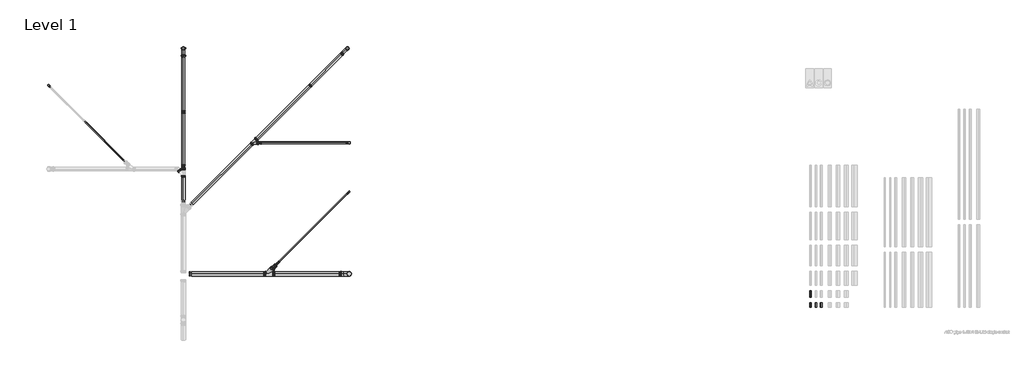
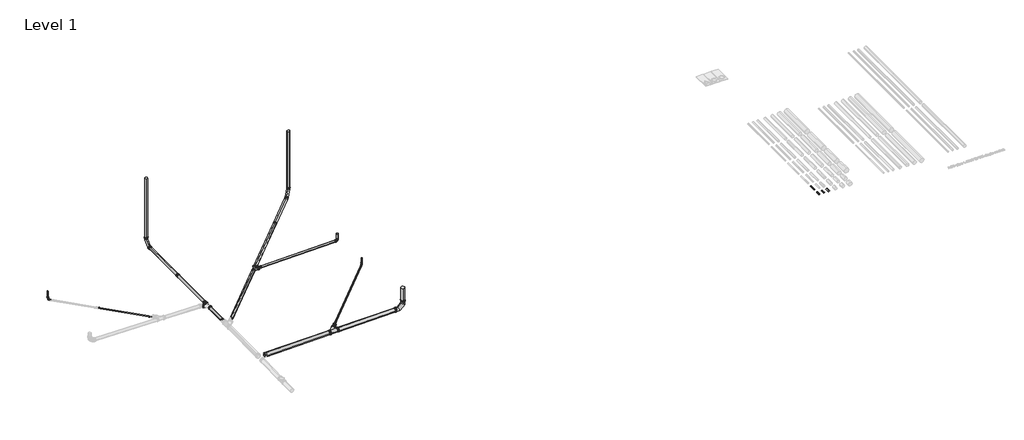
# One storey, part 5 of 13: 54 pipe fittings, 21 pipe segments.
"""IFC4 building model written with IfcOpenShell, lengths in millimetres."""

from ifc_helpers import new_model, si_unit, point, frame, frame_2d, origin, place, context, project, spatial, circle_curve, trimmed, segment, composite_curve, outline, extrude, transform, mapped, element, save
from components import pipe_fitting_1_4404_a0c9185b, pipe_fitting_1_4404_ad30eb08, pipe_fitting_1_4404_a61b8bae, pipe_fitting_1_4404_3284edd7, pipe_fitting_1_4404_e9e6778f, pipe_fitting_1_4404_78f4e6b2, pipe_fitting_1_4404_7859ca27, pipe_fitting_1_4404_a287a520, pipe_fitting_1_4404_6c9c62c8, pipe_fitting_1_4404_cceba5ae, std_4d603621, std_53fa1e38, std_1d744fe9, std_d175c92f, std_a04eb2e2, std_nested_af07ce19, std_nested_b4e13f09, std_nested_072c2150, std_nested_4c693b00, std_nested_44e87db9, std_nested_5f98b4e1, std_nested_c85e2763, std_nested_70f44cd0, std_nested_4988e8d9, std_nested_0eafc151, std_nested_4f3602ba, std_nested_ec74517b, std_nested_ad07eb86, std_nested_c2194d23, std_nested_c6c84c1b, std_nested_8d97be52, std_nested_1dc62a2a, std_nested_8c5ec0dd, std_nested_c800a1cb, std_nested_79b518f9

model = new_model("IFC4")

# Units and contexts
model_context = context("Model", 3, world=origin())
ifc_project = project(units=[si_unit("LENGTHUNIT", "METRE", prefix="MILLI")], contexts=[model_context])

# Site, building, storey
site = spatial("IfcSite", under=ifc_project)
building = spatial("IfcBuilding", under=site)
storey = spatial("IfcBuildingStorey", under=building, Name="Level 1", Elevation=0.0)

# Pipe fittings
placement = place(None, origin())
pipe_fitting_1_4404_shape = pipe_fitting_1_4404_a0c9185b(model_context)
element("IfcPipeFitting", 1, ObjectType="PIF_ST_UN_ACO pipe multibranch_ACO : 1.4404", at=placement, inside=storey, context=model_context, shape_type="MappedRepresentation", body=[
    mapped(pipe_fitting_1_4404_shape, transform((-21424.38778, 1191.2457969, 81.7305835), x_axis=(0.9998875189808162, 0.0, 0.014998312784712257), y_axis=(-9.317528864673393e-05, 0.999980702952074, 0.006211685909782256), z_axis=(-0.014998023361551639, -0.006212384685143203, 0.9998682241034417))),
])
pipe_fitting_1_4404_2_shape = pipe_fitting_1_4404_ad30eb08(model_context)
element("IfcPipeFitting", 2, ObjectType="PIF_ST_UN_ACO pipe bend_ACO : 1.4404", at=placement, inside=storey, context=model_context, shape_type="MappedRepresentation", body=[
    mapped(pipe_fitting_1_4404_2_shape, transform((-18439.5447073, 5952.2695442, 198.8509942), x_axis=(0.0, 0.0, -1.0), y_axis=(-1.0, 0.0, 0.0), z_axis=(0.0, 1.0, 0.0))),
])
pipe_fitting_1_4404_3_shape = pipe_fitting_1_4404_a61b8bae(model_context)
element("IfcPipeFitting", 3, ObjectType="PIF_ST_UN_ACO pipe double bend_ACO : 1.4404", at=placement, inside=storey, context=model_context, shape_type="MappedRepresentation", body=[
    mapped(pipe_fitting_1_4404_3_shape, transform((-18439.7731339, 4176.3172962, 197.0535129), x_axis=(0.0, 0.0, -1.0), y_axis=(-0.7071067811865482, -0.7071067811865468, 0.0), z_axis=(-0.7071067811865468, 0.7071067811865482, 0.0))),
])
pipe_fitting_1_4404_4_shape = pipe_fitting_1_4404_3284edd7(model_context)
element("IfcPipeFitting", 4, ObjectType="PIF_ST_UN_ACO pipe long bend_ACO : 1.4404", at=placement, inside=storey, context=model_context, shape_type="MappedRepresentation", body=[
    mapped(pipe_fitting_1_4404_4_shape, transform((-18505.2897132, 9386.7440181, 204.2019308), x_axis=(0.0, 0.0, -1.0), y_axis=(-0.7071067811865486, -0.7071067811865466, 0.0), z_axis=(-0.7071067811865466, 0.7071067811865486, 0.0))),
])
pipe_fitting_1_4404_5_shape = pipe_fitting_1_4404_e9e6778f(model_context)
element("IfcPipeFitting", 5, ObjectType="PIF_ST_UN_ACO pipe long bend_ACO : 1.4404", at=placement, inside=storey, context=model_context, shape_type="MappedRepresentation", body=[
    mapped(pipe_fitting_1_4404_5_shape, transform((-18439.5447073, 1191.2457969, 126.5032296), x_axis=(0.9998875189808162, 0.0, 0.014998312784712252), y_axis=(-0.014998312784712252, 0.0, 0.9998875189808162), z_axis=(0.0, -1.0, 0.0))),
])
pipe_fitting_1_4404_6_shape = pipe_fitting_1_4404_78f4e6b2(model_context)
element("IfcPipeFitting", 6, ObjectType="PIF_ST_UN_ACO pipe long bend_ACO : 1.4404", at=placement, inside=storey, context=model_context, shape_type="MappedRepresentation", body=[
    mapped(pipe_fitting_1_4404_6_shape, transform((-24468.5517039, 9386.7041561, 70.403708), x_axis=(0.0, 0.0, -1.0), y_axis=(0.0, -1.0, 0.0), z_axis=(-1.0, 0.0, 0.0))),
])
pipe_fitting_1_4404_7_shape = pipe_fitting_1_4404_7859ca27(model_context)
element("IfcPipeFitting", 7, ObjectType="PIF_ST_UN_ACO pipe multibranch_ACO : 1.4404", at=placement, inside=storey, context=model_context, shape_type="MappedRepresentation", body=[
    mapped(pipe_fitting_1_4404_7_shape, transform((-21939.6710013, 5952.3627299, 131.3477019), x_axis=(0.7070272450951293, 0.7070272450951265, 0.01499831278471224), y_axis=(0.7070272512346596, -0.7071590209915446, 0.0062116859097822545), z_axis=(0.014998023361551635, 0.006212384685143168, -0.9998682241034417))),
])
pipe_fitting_1_4404_8_shape = pipe_fitting_1_4404_a287a520(model_context)
element("IfcPipeFitting", 8, ObjectType="PIF_ST_UN_ACO pipe double bend_ACO : 1.4404", at=placement, inside=storey, context=model_context, shape_type="MappedRepresentation", body=[
    mapped(pipe_fitting_1_4404_8_shape, transform((-29368.6615244, 8045.8349965, 136.9828864), x_axis=(0.0, 0.0, -1.0), y_axis=(0.7071067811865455, -0.7071067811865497, 0.0), z_axis=(-0.7071067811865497, -0.7071067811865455, 0.0))),
])
pipe_fitting_1_4404_9_shape = pipe_fitting_1_4404_6c9c62c8(model_context)
element("IfcPipeFitting", 9, ObjectType="PIF_ST_UN_ACO pipe repair coupling_ACO : 1.4404", at=placement, inside=storey, context=model_context, shape_type="MappedRepresentation", body=[
    mapped(pipe_fitting_1_4404_9_shape, transform((-24468.5517039, 7070.7041561, 70.403708), x_axis=(0.0, -1.0, 0.0), y_axis=(1.0, 0.0, 0.0), z_axis=(0.0, 0.0, 1.0))),
])
pipe_fitting_1_4404_10_shape = pipe_fitting_1_4404_cceba5ae(model_context)
element("IfcPipeFitting", 10, ObjectType="PIF_ST_UN_ACO pipe multireducer_ACO : 1.4404", at=placement, inside=storey, context=model_context, shape_type="MappedRepresentation", body=[
    mapped(pipe_fitting_1_4404_10_shape, transform((-24468.5517039, 5032.9655847, 69.8540739), x_axis=(0.0, 0.9999613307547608, 0.008794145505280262), y_axis=(-0.014997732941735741, 0.008793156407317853, -0.9998488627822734), z_axis=(-0.9998875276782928, -0.00013189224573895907, 0.014997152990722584))),
])
std_shape = std_4d603621(model_context)
element("IfcPipeFitting", 11, ObjectType="ZZZ_do not use_PIF_ST_UN_ACO pipe increaser coupling_ACO : std", at=placement, inside=storey, context=model_context, shape_type="MappedRepresentation", body=[
    mapped(std_shape, transform((-21735.6939474, 5952.3627299, 134.4073577), x_axis=(0.9998875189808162, 0.0, 0.014998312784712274), y_axis=(9.317528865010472e-05, -0.999980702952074, -0.00621168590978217), z_axis=(0.014998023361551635, 0.006212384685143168, -0.9998682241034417))),
])
std_2_shape = std_53fa1e38(model_context)
element("IfcPipeFitting", 12, ObjectType="ZZZ_do not use_PIF_ST_UN_ACO pipe increaser coupling_ACO : std", at=placement, inside=storey, context=model_context, shape_type="MappedRepresentation", body=[
    mapped(std_2_shape, transform((-21210.865552, 1404.7680249, 86.2600739), x_axis=(0.7070272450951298, 0.707027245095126, 0.014998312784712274), y_axis=(-0.7070272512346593, 0.7071590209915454, -0.006211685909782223), z_axis=(-0.014998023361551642, -0.006212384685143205, 0.9998682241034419))),
])
std_3_shape = std_1d744fe9(model_context)
element("IfcPipeFitting", 13, ObjectType="ZZZ_do not use_PIF_ST_UN_ACO pipe increaser coupling_ACO : std", at=placement, inside=storey, context=model_context, shape_type="MappedRepresentation", body=[
    mapped(std_3_shape, transform((-21115.7468304, 1500.0800305, 110.2819471), x_axis=(0.7070272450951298, 0.707027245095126, 0.014998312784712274), y_axis=(-0.7070272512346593, 0.7071590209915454, -0.006211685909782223), z_axis=(-0.014998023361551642, -0.006212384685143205, 0.9998682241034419))),
])
std_4_shape = std_d175c92f(model_context)
element("IfcPipeFitting", 14, ObjectType="ZZZ_do not use_PIF_ST_UN_ACO pipe increaser coupling_ACO : std", at=placement, inside=storey, context=model_context, shape_type="MappedRepresentation", body=[
    mapped(std_4_shape, transform((-21047.1866246, 1568.8598773, 136.7409882), x_axis=(0.7070272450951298, 0.707027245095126, 0.014998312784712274), y_axis=(-0.7070272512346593, 0.7071590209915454, -0.006211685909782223), z_axis=(-0.014998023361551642, -0.006212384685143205, 0.9998682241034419))),
])
std_5_shape = std_a04eb2e2(model_context)
element("IfcPipeFitting", 15, ObjectType="ZZZ_do not use_PIF_ST_UN_ACO pipe increaser coupling_ACO : std", at=placement, inside=storey, context=model_context, shape_type="MappedRepresentation", body=[
    mapped(std_5_shape, transform((-24468.5517039, 5032.9655847, 69.8540739), x_axis=(0.0, 0.9999613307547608, 0.008794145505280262), y_axis=(-0.014997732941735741, 0.008793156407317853, -0.9998488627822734), z_axis=(-0.9998875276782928, -0.00013189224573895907, 0.014997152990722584))),
])
std_nested_shape = std_nested_af07ce19(model_context)
element("IfcPipeFitting", 16, ObjectType="ZZZ_do not use_PIF_ST_UN_ACO pipe socket_ACO : std (nested)", at=placement, inside=storey, context=model_context, shape_type="MappedRepresentation", body=[
    mapped(std_nested_shape, transform((-21790.687761, 5952.3627299, 133.5824505), x_axis=(0.9998875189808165, 0.0, 0.014998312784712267), y_axis=(9.317528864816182e-05, -0.9999807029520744, -0.0062116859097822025), z_axis=(0.014998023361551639, 0.00621238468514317, -0.9998682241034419))),
])
element("IfcPipeFitting", 17, ObjectType="ZZZ_do not use_PIF_ST_UN_ACO pipe socket_ACO : std (nested)", at=placement, inside=storey, context=model_context, shape_type="MappedRepresentation", body=[
    mapped(std_nested_shape, transform((-21154.6333289, 1461.193532, 109.4570399), x_axis=(0.7070272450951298, 0.707027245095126, 0.014998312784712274), y_axis=(-0.7070272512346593, 0.7071590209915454, -0.006211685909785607), z_axis=(-0.014998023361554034, -0.006212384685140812, 0.9998682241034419))),
])
std_nested_2_shape = std_nested_b4e13f09(model_context)
element("IfcPipeFitting", 18, ObjectType="ZZZ_do not use_PIF_ST_UN_ACO pipe socket_ACO : std (nested)", at=placement, inside=storey, context=model_context, shape_type="MappedRepresentation", body=[
    mapped(std_nested_2_shape, transform((-22001.8893988, 5890.1443324, 130.0278503), x_axis=(-0.7070272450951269, -0.707027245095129, -0.014998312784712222), y_axis=(-0.7070272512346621, 0.7071590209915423, -0.006211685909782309), z_axis=(0.014998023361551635, 0.006212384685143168, -0.9998682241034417))),
])
element("IfcPipeFitting", 19, ObjectType="ZZZ_do not use_PIF_ST_UN_ACO pipe socket_ACO : std (nested)", at=placement, inside=storey, context=model_context, shape_type="MappedRepresentation", body=[
    mapped(std_nested_2_shape, transform((-19875.6167181, 8016.4170131, 175.1329053), x_axis=(-0.707027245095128, -0.7070272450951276, -0.014998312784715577), y_axis=(-0.014998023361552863, -0.006212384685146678, 0.9998682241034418), z_axis=(-0.7070272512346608, 0.7071590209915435, -0.006211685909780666))),
])
std_nested_3_shape = std_nested_072c2150(model_context)
element("IfcPipeFitting", 20, ObjectType="ZZZ_do not use_PIF_ST_UN_ACO pipe socket_ACO : std (nested)", at=placement, inside=storey, context=model_context, shape_type="MappedRepresentation", body=[
    mapped(std_nested_3_shape, transform((-29337.8948765, 8015.0683486, 153.174939), x_axis=(-0.4962362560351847, 0.4962362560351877, 0.7123897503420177), y_axis=(-0.5037356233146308, 0.5037356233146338, -0.7017840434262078), z_axis=(-0.7071067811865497, -0.7071067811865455, 0.0))),
])
element("IfcPipeFitting", 21, ObjectType="ZZZ_do not use_PIF_ST_UN_ACO pipe socket_ACO : std (nested)", at=placement, inside=storey, context=model_context, shape_type="MappedRepresentation", body=[
    mapped(std_nested_3_shape, transform((-29368.6615244, 8045.8349965, 221.3431035), x_axis=(0.0, 0.0, 1.0), y_axis=(-0.7071067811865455, 0.7071067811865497, 0.0), z_axis=(-0.7071067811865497, -0.7071067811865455, 0.0))),
])
element("IfcPipeFitting", 22, ObjectType="ZZZ_do not use_PIF_ST_UN_ACO pipe socket_ACO : std (nested)", at=placement, inside=storey, context=model_context, shape_type="MappedRepresentation", body=[
    mapped(std_nested_3_shape, transform((-21077.2352825, 1538.8112194, 136.1035599), x_axis=(0.7070272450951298, 0.707027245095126, 0.014998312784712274), y_axis=(-0.7070272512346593, 0.7071590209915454, -0.006211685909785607), z_axis=(-0.014998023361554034, -0.006212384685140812, 0.9998682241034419))),
])
std_nested_4_shape = std_nested_4c693b00(model_context)
element("IfcPipeFitting", 23, ObjectType="ZZZ_do not use_PIF_ST_UN_ACO pipe socket_ACO : std (nested)", at=placement, inside=storey, context=model_context, shape_type="MappedRepresentation", body=[
    mapped(std_nested_4_shape, transform((-21680.9251042, 5952.2695442, 150.2302882), x_axis=(0.9998875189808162, 0.0, 0.014998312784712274), y_axis=(9.317528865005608e-05, -0.999980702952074, -0.006211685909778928), z_axis=(0.014998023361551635, 0.006212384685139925, -0.9998682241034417))),
])
element("IfcPipeFitting", 24, ObjectType="ZZZ_do not use_PIF_ST_UN_ACO pipe socket_ACO : std (nested)", at=placement, inside=storey, context=model_context, shape_type="MappedRepresentation", body=[
    mapped(std_nested_4_shape, transform((-18439.5447073, 5952.2695442, 251.8509942), x_axis=(0.0, 0.0, 1.0), y_axis=(1.0, 0.0, 0.0), z_axis=(0.0, 1.0, 0.0))),
])
std_nested_5_shape = std_nested_44e87db9(model_context)
element("IfcPipeFitting", 25, ObjectType="ZZZ_do not use_PIF_ST_UN_ACO pipe socket_ACO : std (nested)", at=placement, inside=storey, context=model_context, shape_type="MappedRepresentation", body=[
    mapped(std_nested_5_shape, transform((-18519.9833784, 4096.1070517, 195.3519967), x_axis=(-0.7070272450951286, -0.7070272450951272, -0.014998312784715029), y_axis=(-0.01060540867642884, -0.010605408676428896, 0.9998875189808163), z_axis=(-0.7071067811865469, 0.7071067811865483, 0.0))),
])
std_nested_6_shape = std_nested_5f98b4e1(model_context)
element("IfcPipeFitting", 26, ObjectType="ZZZ_do not use_PIF_ST_UN_ACO pipe socket_ACO : std (nested)", at=placement, inside=storey, context=model_context, shape_type="MappedRepresentation", body=[
    mapped(std_nested_6_shape, transform((-18546.5326718, 5952.2695442, 197.2461747), x_axis=(-0.9998875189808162, 0.0, -0.014998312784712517), y_axis=(-0.01499831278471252, 0.0, 0.9998875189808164), z_axis=(0.0, 1.0000000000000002, 0.0))),
])
std_nested_7_shape = std_nested_c85e2763(model_context)
element("IfcPipeFitting", 27, ObjectType="ZZZ_do not use_PIF_ST_UN_ACO pipe socket_ACO : std (nested)", at=placement, inside=storey, context=model_context, shape_type="MappedRepresentation", body=[
    mapped(std_nested_7_shape, transform((-18468.5548368, 4147.5355933, 211.1820836), x_axis=(0.49623625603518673, 0.4962362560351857, 0.7123897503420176), y_axis=(0.5037356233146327, 0.5037356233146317, -0.7017840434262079), z_axis=(-0.7071067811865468, 0.7071067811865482, 0.0))),
])
element("IfcPipeFitting", 28, ObjectType="ZZZ_do not use_PIF_ST_UN_ACO pipe socket_ACO : std (nested)", at=placement, inside=storey, context=model_context, shape_type="MappedRepresentation", body=[
    mapped(std_nested_7_shape, transform((-18439.7731339, 4176.3172962, 273.5006891), x_axis=(0.0, 0.0, 1.0), y_axis=(0.7071067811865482, 0.7071067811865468, 0.0), z_axis=(-0.7071067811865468, 0.7071067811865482, 0.0))),
])
element("IfcPipeFitting", 29, ObjectType="ZZZ_do not use_PIF_ST_UN_ACO pipe socket_ACO : std (nested)", at=placement, inside=storey, context=model_context, shape_type="MappedRepresentation", body=[
    mapped(std_nested_7_shape, transform((-21017.2129568, 1598.8774733, 142.3777576), x_axis=(0.7070272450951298, 0.707027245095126, 0.014998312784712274), y_axis=(-0.7070272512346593, 0.7071590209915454, -0.0062116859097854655), z_axis=(-0.014998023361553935, -0.0062123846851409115, 0.9998682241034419))),
])
std_nested_8_shape = std_nested_70f44cd0(model_context)
element("IfcPipeFitting", 30, ObjectType="ZZZ_do not use_PIF_ST_UN_ACO pipe socket_ACO : std (nested)", at=placement, inside=storey, context=model_context, shape_type="MappedRepresentation", body=[
    mapped(std_nested_8_shape, transform((-21543.3743948, 1191.2457969, 79.9457842), x_axis=(-0.9998875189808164, 0.0, -0.01499831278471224), y_axis=(9.317528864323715e-05, -0.9999807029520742, -0.006211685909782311), z_axis=(-0.014998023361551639, -0.006212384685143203, 0.9998682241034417))),
])
std_nested_9_shape = std_nested_4988e8d9(model_context)
element("IfcPipeFitting", 31, ObjectType="ZZZ_do not use_PIF_ST_UN_ACO pipe socket_ACO : std (nested)", at=placement, inside=storey, context=model_context, shape_type="MappedRepresentation", body=[
    mapped(std_nested_9_shape, transform((-21211.4117385, 1191.2457969, 84.9252241), x_axis=(0.9998875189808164, 0.0, 0.014998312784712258), y_axis=(-9.317528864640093e-05, 0.9999807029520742, 0.006211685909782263), z_axis=(-0.014998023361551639, -0.006212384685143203, 0.9998682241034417))),
])
element("IfcPipeFitting", 32, ObjectType="ZZZ_do not use_PIF_ST_UN_ACO pipe socket_ACO : std (nested)", at=placement, inside=storey, context=model_context, shape_type="MappedRepresentation", body=[
    mapped(std_nested_9_shape, transform((-21267.4277316, 1348.2058453, 85.0602089), x_axis=(0.7070272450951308, 0.7070272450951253, 0.014998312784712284), y_axis=(-0.7070272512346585, 0.7071590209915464, -0.006211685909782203), z_axis=(-0.014998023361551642, -0.006212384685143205, 0.9998682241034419))),
])
std_nested_10_shape = std_nested_0eafc151(model_context)
element("IfcPipeFitting", 33, ObjectType="ZZZ_do not use_PIF_ST_UN_ACO pipe socket_ACO : std (nested)", at=placement, inside=storey, context=model_context, shape_type="MappedRepresentation", body=[
    mapped(std_nested_10_shape, transform((-24468.5517039, 4970.4680015, 69.3044398), x_axis=(0.0, 0.999961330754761, 0.008794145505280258), y_axis=(-0.9998875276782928, -0.0001318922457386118, 0.014997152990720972), z_axis=(0.014997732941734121, -0.008793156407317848, 0.999848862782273))),
])
element("IfcPipeFitting", 34, ObjectType="ZZZ_do not use_PIF_ST_UN_ACO pipe socket_ACO : std (nested)", at=placement, inside=storey, context=model_context, shape_type="MappedRepresentation", body=[
    mapped(std_nested_10_shape, transform((-24588.7384096, 4920.6701532, 70.6692939), x_axis=(-0.706980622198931, 0.7070328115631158, 0.016822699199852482), y_axis=(-0.7070738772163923, -0.7071260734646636, 0.004387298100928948), z_axis=(0.014997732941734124, -0.00879315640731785, 0.9998488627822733))),
])
std_nested_11_shape = std_nested_4f3602ba(model_context)
element("IfcPipeFitting", 35, ObjectType="ZZZ_do not use_PIF_ST_UN_ACO pipe socket_ACO : std (nested)", at=placement, inside=storey, context=model_context, shape_type="MappedRepresentation", body=[
    mapped(std_nested_11_shape, transform((-24468.5517039, 4697.4785582, 66.9036381), x_axis=(0.0, -0.999961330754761, -0.008794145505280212), y_axis=(0.9998875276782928, 0.0001318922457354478, -0.014997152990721), z_axis=(0.014997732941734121, -0.008793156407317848, 0.999848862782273))),
])
std_nested_12_shape = std_nested_ec74517b(model_context)
element("IfcPipeFitting", 36, ObjectType="ZZZ_do not use_PIF_ST_UN_ACO pipe socket_ACO : std (nested)", at=placement, inside=storey, context=model_context, shape_type="MappedRepresentation", body=[
    mapped(std_nested_12_shape, transform((-24468.5517039, 5095.4631678, 70.403708), x_axis=(0.0, 0.9999613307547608, 0.008794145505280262), y_axis=(-0.014997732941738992, 0.008793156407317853, -0.9998488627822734), z_axis=(-0.9998875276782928, -0.00013189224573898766, 0.014997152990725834))),
])
element("IfcPipeFitting", 37, ObjectType="ZZZ_do not use_PIF_ST_UN_ACO pipe socket_ACO : std (nested)", at=placement, inside=storey, context=model_context, shape_type="MappedRepresentation", body=[
    mapped(std_nested_2_shape, transform((-18728.7103226, 9163.3234086, 199.462464), x_axis=(-0.7070272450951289, -0.7070272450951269, -0.014998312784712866), y_axis=(-0.010605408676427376, -0.010605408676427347, 0.9998875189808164), z_axis=(-0.7071067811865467, 0.7071067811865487, 0.0))),
])
element("IfcPipeFitting", 38, ObjectType="ZZZ_do not use_PIF_ST_UN_ACO pipe socket_ACO : std (nested)", at=placement, inside=storey, context=model_context, shape_type="MappedRepresentation", body=[
    mapped(std_nested_shape, transform((-18505.2897132, 9386.7440181, 450.2019308), x_axis=(0.0, 0.0, 1.0), y_axis=(0.7071067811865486, 0.7071067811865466, 0.0), z_axis=(-0.7071067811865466, 0.7071067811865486, 0.0))),
])
element("IfcPipeFitting", 39, ObjectType="ZZZ_do not use_PIF_ST_UN_ACO pipe socket_ACO : std (nested)", at=placement, inside=storey, context=model_context, shape_type="MappedRepresentation", body=[
    mapped(std_nested_9_shape, transform((-18439.5447073, 1191.2457969, 396.5032296), x_axis=(0.0, 0.0, 1.0000000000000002), y_axis=(-1.0000000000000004, 0.0, 0.0), z_axis=(0.0, -1.0000000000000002, 0.0))),
])
element("IfcPipeFitting", 40, ObjectType="ZZZ_do not use_PIF_ST_UN_ACO pipe socket_ACO : std (nested)", at=placement, inside=storey, context=model_context, shape_type="MappedRepresentation", body=[
    mapped(std_nested_8_shape, transform((-18799.5042141, 1191.2457969, 121.103837), x_axis=(-0.9998875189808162, 0.0, -0.01499831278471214), y_axis=(0.01499831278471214, 0.0, -0.9998875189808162), z_axis=(0.0, -1.0, 0.0))),
])
std_nested_13_shape = std_nested_ad07eb86(model_context)
element("IfcPipeFitting", 41, ObjectType="ZZZ_do not use_PIF_ST_UN_ACO pipe branch_ACO : std (nested)", at=placement, inside=storey, context=model_context, shape_type="MappedRepresentation", body=[
    mapped(std_nested_13_shape, transform((-21424.38778, 1191.2457969, 81.7305835), x_axis=(0.9998875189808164, 0.0, 0.014998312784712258), y_axis=(-9.317528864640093e-05, 0.9999807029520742, 0.006211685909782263), z_axis=(-0.014998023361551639, -0.006212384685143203, 0.9998682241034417))),
])
std_nested_14_shape = std_nested_c2194d23(model_context)
element("IfcPipeFitting", 42, ObjectType="ZZZ_do not use_PIF_ST_UN_ACO pipe bend_ACO : std (nested)", at=placement, inside=storey, context=model_context, shape_type="MappedRepresentation", body=[
    mapped(std_nested_14_shape, transform((-18478.9757981, 4137.114632, 196.2218988), x_axis=(-0.49623625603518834, -0.4962362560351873, -0.7123897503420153), y_axis=(-0.5037356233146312, -0.5037356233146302, 0.7017840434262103), z_axis=(-0.7071067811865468, 0.7071067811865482, 0.0))),
])
element("IfcPipeFitting", 43, ObjectType="ZZZ_do not use_PIF_ST_UN_ACO pipe bend_ACO : std (nested)", at=placement, inside=storey, context=model_context, shape_type="MappedRepresentation", body=[
    mapped(std_nested_14_shape, transform((-18439.7731339, 4176.3172962, 252.5006891), x_axis=(0.0, 0.0, -1.0), y_axis=(-0.7071067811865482, -0.7071067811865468, 0.0), z_axis=(-0.7071067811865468, 0.7071067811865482, 0.0))),
])
std_nested_15_shape = std_nested_c6c84c1b(model_context)
element("IfcPipeFitting", 44, ObjectType="ZZZ_do not use_PIF_ST_UN_ACO pipe socket clamp_ACO : std (nested)", at=placement, inside=storey, context=model_context, shape_type="MappedRepresentation", body=[
    mapped(std_nested_15_shape, transform((-21807.4569064, 6084.5768248, 134.1523863), x_axis=(0.7070272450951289, 0.707027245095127, 0.01499831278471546), y_axis=(-0.7070272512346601, 0.7071590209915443, -0.006211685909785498), z_axis=(-0.014998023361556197, -0.0062123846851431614, 0.9998682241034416))),
])
element("IfcPipeFitting", 45, ObjectType="ZZZ_do not use_PIF_ST_UN_ACO pipe socket_ACO : std (nested)", at=placement, inside=storey, context=model_context, shape_type="MappedRepresentation", body=[
    mapped(std_nested_2_shape, transform((-24468.5517039, 9070.7041561, 70.403708), x_axis=(0.0, -1.0, 0.0), y_axis=(0.0, 0.0, 1.0), z_axis=(-1.0, 0.0, 0.0))),
])
std_nested_16_shape = std_nested_8d97be52(model_context)
element("IfcPipeFitting", 46, ObjectType="ZZZ_do not use_PIF_ST_UN_ACO pipe socket clamp two parts_ACO : std (nested)", at=placement, inside=storey, context=model_context, shape_type="MappedRepresentation", body=[
    mapped(std_nested_16_shape, transform((-24468.5517039, 9112.7041561, 70.403708), x_axis=(0.0, 1.0, 0.0), y_axis=(-1.0, 0.0, 0.0), z_axis=(0.0, 0.0, 1.0))),
])
element("IfcPipeFitting", 47, ObjectType="ZZZ_do not use_PIF_ST_UN_ACO pipe socket clamp two parts_ACO : std (nested)", at=placement, inside=storey, context=model_context, shape_type="MappedRepresentation", body=[
    mapped(std_nested_16_shape, transform((-24468.5517039, 9386.7041561, 358.403708), x_axis=(0.0, 0.0, 1.0), y_axis=(-1.0, 0.0, 0.0), z_axis=(0.0, -1.0, 0.0))),
])
element("IfcPipeFitting", 48, ObjectType="ZZZ_do not use_PIF_ST_UN_ACO pipe socket_ACO : std (nested)", at=placement, inside=storey, context=model_context, shape_type="MappedRepresentation", body=[
    mapped(std_nested_shape, transform((-24468.5517039, 9386.7041561, 316.403708), x_axis=(0.0, 0.0, 1.0), y_axis=(0.0, 1.0, 0.0), z_axis=(-1.0, 0.0, 0.0))),
])
std_nested_17_shape = std_nested_1dc62a2a(model_context)
element("IfcPipeFitting", 49, ObjectType="ZZZ_do not use_PIF_ST_UN_ACO pipe branch_ACO : std (nested)", at=placement, inside=storey, context=model_context, shape_type="MappedRepresentation", body=[
    mapped(std_nested_17_shape, transform((-21939.6710013, 5952.3627299, 131.3477019), x_axis=(0.7070272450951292, 0.7070272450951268, 0.014998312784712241), y_axis=(0.7070272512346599, -0.7071590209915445, 0.0062116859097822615), z_axis=(0.014998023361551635, 0.006212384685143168, -0.9998682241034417))),
])
element("IfcPipeFitting", 50, ObjectType="ZZZ_do not use_PIF_ST_UN_ACO pipe socket_ACO : std (nested)", at=placement, inside=storey, context=model_context, shape_type="MappedRepresentation", body=[
    mapped(std_nested_shape, transform((-21837.1520507, 6054.8816805, 133.5224572), x_axis=(0.7070272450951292, 0.7070272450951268, 0.014998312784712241), y_axis=(0.7070272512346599, -0.7071590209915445, 0.0062116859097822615), z_axis=(0.014998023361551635, 0.006212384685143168, -0.9998682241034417))),
])
std_nested_18_shape = std_nested_8c5ec0dd(model_context)
element("IfcPipeFitting", 51, ObjectType="ZZZ_do not use_PIF_ST_UN_ACO pipe bend_ACO : std (nested)", at=placement, inside=storey, context=model_context, shape_type="MappedRepresentation", body=[
    mapped(std_nested_18_shape, transform((-29325.9852063, 8003.1586784, 136.077585), x_axis=(0.4962362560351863, -0.4962362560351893, -0.7123897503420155), y_axis=(0.5037356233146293, -0.5037356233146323, 0.7017840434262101), z_axis=(-0.7071067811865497, -0.7071067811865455, 0.0))),
])
element("IfcPipeFitting", 52, ObjectType="ZZZ_do not use_PIF_ST_UN_ACO pipe bend_ACO : std (nested)", at=placement, inside=storey, context=model_context, shape_type="MappedRepresentation", body=[
    mapped(std_nested_18_shape, transform((-29368.6615244, 8045.8349965, 197.3431035), x_axis=(0.0, 0.0, -1.0), y_axis=(0.7071067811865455, -0.7071067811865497, 0.0), z_axis=(-0.7071067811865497, -0.7071067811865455, 0.0))),
])
std_nested_19_shape = std_nested_c800a1cb(model_context)
element("IfcPipeFitting", 53, ObjectType="ZZZ_do not use_PIF_ST_UN_ACO pipe multireducer_ACO : std (nested)", at=placement, inside=storey, context=model_context, shape_type="MappedRepresentation", body=[
    mapped(std_nested_19_shape, transform((-21735.6939474, 5952.3627299, 134.4073577), x_axis=(0.9998875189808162, 0.0, 0.014998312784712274), y_axis=(9.317528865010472e-05, -0.999980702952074, -0.00621168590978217), z_axis=(0.014998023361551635, 0.006212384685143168, -0.9998682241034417))),
])
std_nested_20_shape = std_nested_79b518f9(model_context)
element("IfcPipeFitting", 54, ObjectType="ZZZ_do not use_PIF_ST_UN_ACO pipe multireducer_ACO : std (nested)", at=placement, inside=storey, context=model_context, shape_type="MappedRepresentation", body=[
    mapped(std_nested_20_shape, transform((-21141.9303956, 1473.7031813, 87.7224094), x_axis=(0.7070272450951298, 0.707027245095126, 0.014998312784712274), y_axis=(-0.7070272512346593, 0.7071590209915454, -0.006211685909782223), z_axis=(-0.014998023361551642, -0.006212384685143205, 0.9998682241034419))),
])

# Pipe segments
element("IfcPipeSegment", 55, ObjectType="ACO pipe 1.4301 OD (complex)", at=placement, inside=storey, context=model_context, shape_type="SweptSolid", body=[
    extrude(outline(composite_curve([segment(trimmed(circle_curve(frame_2d((0.0, -1678.2538939)), 20.0), [point((0.0, -1658.2538939))], [point((20.0, -1678.2538939))], False, "CARTESIAN"), True, "CONTINUOUS"), segment(trimmed(circle_curve(frame_2d((0.0, -1678.2538939)), 20.0), [point((20.0, -1678.2538939))], [point((0.0, -1698.2538939))], False, "CARTESIAN"), True, "CONTINUOUS"), segment(trimmed(circle_curve(frame_2d((0.0, -1678.2538939)), 20.0), [point((0.0, -1698.2538939))], [point((-20.0, -1678.2538939))], False, "CARTESIAN"), True, "CONTINUOUS"), segment(trimmed(circle_curve(frame_2d((0.0, -1678.2538939)), 20.0), [point((-20.0, -1678.2538939))], [point((0.0, -1658.2538939))], False, "CARTESIAN"), True, "CONTINUOUS")], self_intersect=False)), frame((0.0, -19.2114353, 0.0), z_axis=(0.0, 1.0, 0.0), x_axis=(0.0, 0.0, 1.0)), (0.0, 0.0, 1.0), 150.0),
])
element("IfcPipeSegment", 56, ObjectType="ACO pipe 1.4301 OD (complex)", at=placement, inside=storey, context=model_context, shape_type="SweptSolid", body=[
    extrude(outline(composite_curve([segment(trimmed(circle_curve(frame_2d((0.0, -1478.2538939)), 25.0), [point((0.0, -1453.2538939))], [point((25.0, -1478.2538939))], False, "CARTESIAN"), True, "CONTINUOUS"), segment(trimmed(circle_curve(frame_2d((0.0, -1478.2538939)), 25.0), [point((25.0, -1478.2538939))], [point((0.0, -1503.2538939))], False, "CARTESIAN"), True, "CONTINUOUS"), segment(trimmed(circle_curve(frame_2d((0.0, -1478.2538939)), 25.0), [point((0.0, -1503.2538939))], [point((-25.0, -1478.2538939))], False, "CARTESIAN"), True, "CONTINUOUS"), segment(trimmed(circle_curve(frame_2d((0.0, -1478.2538939)), 25.0), [point((-25.0, -1478.2538939))], [point((0.0, -1453.2538939))], False, "CARTESIAN"), True, "CONTINUOUS")], self_intersect=False)), frame((0.0, -19.2114353, 0.0), z_axis=(0.0, 1.0, 0.0), x_axis=(0.0, 0.0, 1.0)), (0.0, 0.0, 1.0), 150.0),
])
element("IfcPipeSegment", 57, ObjectType="ACO pipe 1.4301 OD (complex)", at=placement, inside=storey, context=model_context, shape_type="SweptSolid", body=[
    extrude(outline(composite_curve([segment(trimmed(circle_curve(frame_2d((0.0, -1278.2538939)), 37.5), [point((0.0, -1240.7538939))], [point((37.5, -1278.2538939))], False, "CARTESIAN"), True, "CONTINUOUS"), segment(trimmed(circle_curve(frame_2d((0.0, -1278.2538939)), 37.5), [point((37.5, -1278.2538939))], [point((0.0, -1315.7538939))], False, "CARTESIAN"), True, "CONTINUOUS"), segment(trimmed(circle_curve(frame_2d((0.0, -1278.2538939)), 37.5), [point((0.0, -1315.7538939))], [point((-37.5, -1278.2538939))], False, "CARTESIAN"), True, "CONTINUOUS"), segment(trimmed(circle_curve(frame_2d((0.0, -1278.2538939)), 37.5), [point((-37.5, -1278.2538939))], [point((0.0, -1240.7538939))], False, "CARTESIAN"), True, "CONTINUOUS")], self_intersect=False)), frame((0.0, -19.2114353, 0.0), z_axis=(0.0, 1.0, 0.0), x_axis=(0.0, 0.0, 1.0)), (0.0, 0.0, 1.0), 150.0),
])
element("IfcPipeSegment", 58, ObjectType="ACO pipe 1.4301 OD (complex)", at=placement, inside=storey, context=model_context, shape_type="SweptSolid", body=[
    extrude(outline(composite_curve([segment(trimmed(circle_curve(frame_2d((0.0, -1678.2538939)), 20.0), [point((0.0, -1658.2538939))], [point((20.0, -1678.2538939))], False, "CARTESIAN"), True, "CONTINUOUS"), segment(trimmed(circle_curve(frame_2d((0.0, -1678.2538939)), 20.0), [point((20.0, -1678.2538939))], [point((0.0, -1698.2538939))], False, "CARTESIAN"), True, "CONTINUOUS"), segment(trimmed(circle_curve(frame_2d((0.0, -1678.2538939)), 20.0), [point((0.0, -1698.2538939))], [point((-20.0, -1678.2538939))], False, "CARTESIAN"), True, "CONTINUOUS"), segment(trimmed(circle_curve(frame_2d((0.0, -1678.2538939)), 20.0), [point((-20.0, -1678.2538939))], [point((0.0, -1658.2538939))], False, "CARTESIAN"), True, "CONTINUOUS")], self_intersect=False)), frame((0.0, 330.7885647, 0.0), z_axis=(0.0, 1.0, 0.0), x_axis=(0.0, 0.0, 1.0)), (0.0, 0.0, 1.0), 250.0),
])
element("IfcPipeSegment", 59, ObjectType="ACO pipe 1.4404 OD (complex)", at=placement, inside=storey, context=model_context, shape_type="SweptSolid", body=[
    extrude(outline(composite_curve([segment(trimmed(circle_curve(frame_2d((0.0, 55.0)), 55.0), [point((54.993815, 54.1751856))], [point((-0.8248144, 0.006185))], False, "CARTESIAN"), True, "CONTINUOUS"), segment(trimmed(circle_curve(frame_2d((0.0, 55.0)), 55.0), [point((-0.8248144, 0.006185))], [point((-54.9938149, 55.8248145))], False, "CARTESIAN"), True, "CONTINUOUS"), segment(trimmed(circle_curve(frame_2d((0.0, 55.0)), 55.0), [point((-54.9938149, 55.8248145))], [point((0.8248145, 109.9938149))], False, "CARTESIAN"), True, "CONTINUOUS"), segment(trimmed(circle_curve(frame_2d((0.0, 55.0)), 55.0), [point((0.8248145, 109.9938149))], [point((54.993815, 54.1751856))], False, "CARTESIAN"), True, "CONTINUOUS")], self_intersect=False)), frame((-24198.7404764, 3692.1267911, 138.4132307), z_axis=(0.707027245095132, 0.7070272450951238, 0.014998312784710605), x_axis=(0.7071863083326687, -0.7068682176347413, -0.01499493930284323)), (0.0, 0.0, 1.0), 3107.1660856),
])
element("IfcPipeSegment", 60, ObjectType="ACO pipe 1.4404 OD (complex)", at=placement, inside=storey, context=model_context, shape_type="SweptSolid", body=[
    extrude(outline(composite_curve([segment(trimmed(circle_curve(frame_2d((0.0, 80.0)), 80.0), [point((0.0, 0.0))], [point((-80.0, 80.0))], False, "CARTESIAN"), True, "CONTINUOUS"), segment(trimmed(circle_curve(frame_2d((0.0, 80.0)), 80.0), [point((-80.0, 80.0))], [point((0.0, 160.0))], False, "CARTESIAN"), True, "CONTINUOUS"), segment(trimmed(circle_curve(frame_2d((0.0, 80.0)), 80.0), [point((0.0, 160.0))], [point((80.0, 80.0))], False, "CARTESIAN"), True, "CONTINUOUS"), segment(trimmed(circle_curve(frame_2d((0.0, 80.0)), 80.0), [point((80.0, 80.0))], [point((0.0, 0.0))], False, "CARTESIAN"), True, "CONTINUOUS")], self_intersect=False)), frame((-24245.0768434, 1111.2457969, 39.4202475), z_axis=(0.9998875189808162, 0.0, 0.014998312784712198), x_axis=(0.014998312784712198, 0.0, -0.9998875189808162)), (0.0, 0.0, 1.0), 2702.006373),
])
element("IfcPipeSegment", 61, ObjectType="ACO pipe 1.4404 OD (complex)", at=placement, inside=storey, context=model_context, shape_type="SweptSolid", body=[
    extrude(outline(composite_curve([segment(trimmed(circle_curve(frame_2d((-18505.2897132, 9386.7440181)), 55.0), [point((-18450.2897132, 9386.7440181))], [point((-18505.2897132, 9331.7440181))], False, "CARTESIAN"), True, "CONTINUOUS"), segment(trimmed(circle_curve(frame_2d((-18505.2897132, 9386.7440181)), 55.0), [point((-18505.2897132, 9331.7440181))], [point((-18560.2897132, 9386.7440181))], False, "CARTESIAN"), True, "CONTINUOUS"), segment(trimmed(circle_curve(frame_2d((-18505.2897132, 9386.7440181)), 55.0), [point((-18560.2897132, 9386.7440181))], [point((-18505.2897132, 9441.7440181))], False, "CARTESIAN"), True, "CONTINUOUS"), segment(trimmed(circle_curve(frame_2d((-18505.2897132, 9386.7440181)), 55.0), [point((-18505.2897132, 9441.7440181))], [point((-18450.2897132, 9386.7440181))], False, "CARTESIAN"), True, "CONTINUOUS")], self_intersect=False)), frame((0.0, 0.0, 450.2019308), z_axis=(0.0, 0.0, 1.0), x_axis=(1.0, 0.0, 0.0)), (0.0, 0.0, 1.0), 2549.7980692),
])
element("IfcPipeSegment", 62, ObjectType="ACO pipe 1.4404 OD (complex)", at=placement, inside=storey, context=model_context, shape_type="SweptSolid", body=[
    extrude(outline(composite_curve([segment(trimmed(circle_curve(frame_2d((0.0, -55.0)), 55.0), [point((-54.993815, -54.1751856))], [point((0.8248143, -0.0061851))], False, "CARTESIAN"), True, "CONTINUOUS"), segment(trimmed(circle_curve(frame_2d((0.0, -55.0)), 55.0), [point((0.8248143, -0.0061851))], [point((54.9938149, -55.8248145))], False, "CARTESIAN"), True, "CONTINUOUS"), segment(trimmed(circle_curve(frame_2d((0.0, -55.0)), 55.0), [point((54.9938149, -55.8248145))], [point((-0.8248145, -109.993815))], False, "CARTESIAN"), True, "CONTINUOUS"), segment(trimmed(circle_curve(frame_2d((0.0, -55.0)), 55.0), [point((-0.8248145, -109.993815))], [point((-54.993815, -54.1751856))], False, "CARTESIAN"), True, "CONTINUOUS")], self_intersect=False)), frame((-21837.1520507, 6056.0481442, 78.534828), z_axis=(0.707027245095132, 0.7070272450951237, 0.014998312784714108), x_axis=(0.7071863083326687, -0.7068682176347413, -0.01499493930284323)), (0.0, 0.0, 1.0), 2774.3419313),
])
element("IfcPipeSegment", 63, ObjectType="ACO pipe 1.4404 OD (complex)", at=placement, inside=storey, context=model_context, shape_type="SweptSolid", body=[
    extrude(outline(composite_curve([segment(trimmed(circle_curve(frame_2d((-24468.5517039, 9386.7041561)), 55.0), [point((-24413.5517039, 9386.7041561))], [point((-24468.5517039, 9331.7041561))], False, "CARTESIAN"), True, "CONTINUOUS"), segment(trimmed(circle_curve(frame_2d((-24468.5517039, 9386.7041561)), 55.0), [point((-24468.5517039, 9331.7041561))], [point((-24523.5517039, 9386.7041561))], False, "CARTESIAN"), True, "CONTINUOUS"), segment(trimmed(circle_curve(frame_2d((-24468.5517039, 9386.7041561)), 55.0), [point((-24523.5517039, 9386.7041561))], [point((-24468.5517039, 9441.7041561))], False, "CARTESIAN"), True, "CONTINUOUS"), segment(trimmed(circle_curve(frame_2d((-24468.5517039, 9386.7041561)), 55.0), [point((-24468.5517039, 9441.7041561))], [point((-24413.5517039, 9386.7041561))], False, "CARTESIAN"), True, "CONTINUOUS")], self_intersect=False)), frame((0.0, 0.0, 316.403708), z_axis=(0.0, 0.0, 1.0), x_axis=(1.0, 0.0, 0.0)), (0.0, 0.0, 1.0), 2683.596292),
])
element("IfcPipeSegment", 64, ObjectType="ACO pipe 1.4404 OD (complex)", at=placement, inside=storey, context=model_context, shape_type="SweptSolid", body=[
    extrude(outline(composite_curve([segment(trimmed(circle_curve(frame_2d((70.403708, -24468.5517039)), 55.0), [point((70.403708, -24523.5517039))], [point((15.403708, -24468.5517039))], False, "CARTESIAN"), True, "CONTINUOUS"), segment(trimmed(circle_curve(frame_2d((70.403708, -24468.5517039)), 55.0), [point((15.403708, -24468.5517039))], [point((70.403708, -24413.5517039))], False, "CARTESIAN"), True, "CONTINUOUS"), segment(trimmed(circle_curve(frame_2d((70.403708, -24468.5517039)), 55.0), [point((70.403708, -24413.5517039))], [point((125.403708, -24468.5517039))], False, "CARTESIAN"), True, "CONTINUOUS"), segment(trimmed(circle_curve(frame_2d((70.403708, -24468.5517039)), 55.0), [point((125.403708, -24468.5517039))], [point((70.403708, -24523.5517039))], False, "CARTESIAN"), True, "CONTINUOUS")], self_intersect=False)), frame((0.0, 5095.4631678, 0.0), z_axis=(0.0, 1.0, 0.0), x_axis=(0.0, 0.0, 1.0)), (0.0, 0.0, 1.0), 1975.2409883),
])
element("IfcPipeSegment", 65, ObjectType="ACO pipe 1.4404 OD (complex)", at=placement, inside=storey, context=model_context, shape_type="SweptSolid", body=[
    extrude(outline(composite_curve([segment(trimmed(circle_curve(frame_2d((-18439.5447073, 5952.2695442)), 37.5), [point((-18402.0447073, 5952.2695442))], [point((-18439.5447073, 5914.7695442))], False, "CARTESIAN"), True, "CONTINUOUS"), segment(trimmed(circle_curve(frame_2d((-18439.5447073, 5952.2695442)), 37.5), [point((-18439.5447073, 5914.7695442))], [point((-18477.0447073, 5952.2695442))], False, "CARTESIAN"), True, "CONTINUOUS"), segment(trimmed(circle_curve(frame_2d((-18439.5447073, 5952.2695442)), 37.5), [point((-18477.0447073, 5952.2695442))], [point((-18439.5447073, 5989.7695442))], False, "CARTESIAN"), True, "CONTINUOUS"), segment(trimmed(circle_curve(frame_2d((-18439.5447073, 5952.2695442)), 37.5), [point((-18439.5447073, 5989.7695442))], [point((-18402.0447073, 5952.2695442))], False, "CARTESIAN"), True, "CONTINUOUS")], self_intersect=False)), frame((0.0, 0.0, 251.8509942), z_axis=(0.0, 0.0, 1.0), x_axis=(1.0, 0.0, 0.0)), (0.0, 0.0, 1.0), 248.1490058),
])
element("IfcPipeSegment", 66, ObjectType="ACO pipe 1.4404 OD (complex)", at=placement, inside=storey, context=model_context, shape_type="SweptSolid", body=[
    extrude(outline(composite_curve([segment(trimmed(circle_curve(frame_2d((0.0, -37.5)), 37.5), [point((0.0, 0.0))], [point((37.4999999, -37.5))], False, "CARTESIAN"), True, "CONTINUOUS"), segment(trimmed(circle_curve(frame_2d((0.0, -37.5)), 37.5), [point((37.4999999, -37.5))], [point((0.0, -75.0))], False, "CARTESIAN"), True, "CONTINUOUS"), segment(trimmed(circle_curve(frame_2d((0.0, -37.5)), 37.5), [point((0.0, -75.0))], [point((-37.5, -37.5))], False, "CARTESIAN"), True, "CONTINUOUS"), segment(trimmed(circle_curve(frame_2d((0.0, -37.5)), 37.5), [point((-37.5, -37.5))], [point((0.0, 0.0))], False, "CARTESIAN"), True, "CONTINUOUS")], self_intersect=False)), frame((-21680.9251042, 5989.7695442, 150.2302882), z_axis=(0.9998875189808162, 0.0, 0.0149983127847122), x_axis=(0.0149983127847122, 0.0, -0.9998875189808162)), (0.0, 0.0, 1.0), 3134.7450317),
])
element("IfcPipeSegment", 67, ObjectType="ACO pipe 1.4404 OD (complex)", at=placement, inside=storey, context=model_context, shape_type="SweptSolid", body=[
    extrude(outline(composite_curve([segment(trimmed(circle_curve(frame_2d((-29368.6615244, 8045.8349965)), 25.0), [point((-29343.6615244, 8045.8349965))], [point((-29368.6615244, 8020.8349965))], False, "CARTESIAN"), True, "CONTINUOUS"), segment(trimmed(circle_curve(frame_2d((-29368.6615244, 8045.8349965)), 25.0), [point((-29368.6615244, 8020.8349965))], [point((-29393.6615244, 8045.8349965))], False, "CARTESIAN"), True, "CONTINUOUS"), segment(trimmed(circle_curve(frame_2d((-29368.6615244, 8045.8349965)), 25.0), [point((-29393.6615244, 8045.8349965))], [point((-29368.6615244, 8070.8349965))], False, "CARTESIAN"), True, "CONTINUOUS"), segment(trimmed(circle_curve(frame_2d((-29368.6615244, 8045.8349965)), 25.0), [point((-29368.6615244, 8070.8349965))], [point((-29343.6615244, 8045.8349965))], False, "CARTESIAN"), True, "CONTINUOUS")], self_intersect=False)), frame((0.0, 0.0, 221.3431035), z_axis=(0.0, 0.0, 1.0), x_axis=(1.0, 0.0, 0.0)), (0.0, 0.0, 1.0), 278.6568965),
])
element("IfcPipeSegment", 68, ObjectType="ACO pipe 1.4404 OD (complex)", at=placement, inside=storey, context=model_context, shape_type="SweptSolid", body=[
    extrude(outline(composite_curve([segment(trimmed(circle_curve(frame_2d((0.0, -25.0)), 25.0), [point((-24.9971886, -25.3749157))], [point((-0.3749157, -0.0028115))], False, "CARTESIAN"), True, "CONTINUOUS"), segment(trimmed(circle_curve(frame_2d((0.0, -25.0)), 25.0), [point((-0.3749157, -0.0028115))], [point((24.9971886, -24.6250843))], False, "CARTESIAN"), True, "CONTINUOUS"), segment(trimmed(circle_curve(frame_2d((0.0, -25.0)), 25.0), [point((24.9971886, -24.6250843))], [point((0.3749157, -49.9971886))], False, "CARTESIAN"), True, "CONTINUOUS"), segment(trimmed(circle_curve(frame_2d((0.0, -25.0)), 25.0), [point((0.3749157, -49.9971886))], [point((-24.9971886, -25.3749157))], False, "CARTESIAN"), True, "CONTINUOUS")], self_intersect=False)), frame((-26607.7716326, 5285.4753155, 53.4211905), z_axis=(-0.707027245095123, 0.7070272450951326, 0.01499831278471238), x_axis=(0.7071863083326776, 0.7068682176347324, 0.01499493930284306)), (0.0, 0.0, 1.0), 2041.8620164),
])
element("IfcPipeSegment", 69, ObjectType="ACO pipe 1.4404 OD (complex)", at=placement, inside=storey, context=model_context, shape_type="SweptSolid", body=[
    extrude(outline(composite_curve([segment(trimmed(circle_curve(frame_2d((-18439.5447073, 1191.2457969)), 80.0), [point((-18519.5447073, 1191.2457969))], [point((-18439.5447073, 1271.2457969))], False, "CARTESIAN"), True, "CONTINUOUS"), segment(trimmed(circle_curve(frame_2d((-18439.5447073, 1191.2457969)), 80.0), [point((-18439.5447073, 1271.2457969))], [point((-18359.5447073, 1191.2457969))], False, "CARTESIAN"), True, "CONTINUOUS"), segment(trimmed(circle_curve(frame_2d((-18439.5447073, 1191.2457969)), 80.0), [point((-18359.5447073, 1191.2457969))], [point((-18439.5447073, 1111.2457969))], False, "CARTESIAN"), True, "CONTINUOUS"), segment(trimmed(circle_curve(frame_2d((-18439.5447073, 1191.2457969)), 80.0), [point((-18439.5447073, 1111.2457969))], [point((-18519.5447073, 1191.2457969))], False, "CARTESIAN"), True, "CONTINUOUS")], self_intersect=False)), frame((0.0, 0.0, 396.5032296), z_axis=(0.0, 0.0, 1.0), x_axis=(1.0, 0.0, 0.0)), (0.0, 0.0, 1.0), 603.4967704),
])
element("IfcPipeSegment", 70, ObjectType="ACO pipe 1.4404 OD (complex)", at=placement, inside=storey, context=model_context, shape_type="SweptSolid", body=[
    extrude(outline(composite_curve([segment(trimmed(circle_curve(frame_2d((0.0, -80.0)), 80.0), [point((0.0, 0.0))], [point((80.0, -80.0))], False, "CARTESIAN"), True, "CONTINUOUS"), segment(trimmed(circle_curve(frame_2d((0.0, -80.0)), 80.0), [point((80.0, -80.0))], [point((0.0, -160.0))], False, "CARTESIAN"), True, "CONTINUOUS"), segment(trimmed(circle_curve(frame_2d((0.0, -80.0)), 80.0), [point((0.0, -160.0))], [point((-80.0, -80.0))], False, "CARTESIAN"), True, "CONTINUOUS"), segment(trimmed(circle_curve(frame_2d((0.0, -80.0)), 80.0), [point((-80.0, -80.0))], [point((0.0, 0.0))], False, "CARTESIAN"), True, "CONTINUOUS")], self_intersect=False)), frame((-21211.4117385, 1271.2457969, 84.9252241), z_axis=(0.9998875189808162, 0.0, 0.014998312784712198), x_axis=(0.014998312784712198, 0.0, -0.9998875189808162)), (0.0, 0.0, 1.0), 2412.1788486),
])
element("IfcPipeSegment", 71, ObjectType="ACO pipe 1.4404 OD (complex)", at=placement, inside=storey, context=model_context, shape_type="SweptSolid", body=[
    extrude(outline(composite_curve([segment(trimmed(circle_curve(frame_2d((-18439.7731339, 4176.3172962)), 20.0), [point((-18419.7731339, 4176.3172962))], [point((-18439.7731339, 4156.3172962))], False, "CARTESIAN"), True, "CONTINUOUS"), segment(trimmed(circle_curve(frame_2d((-18439.7731339, 4176.3172962)), 20.0), [point((-18439.7731339, 4156.3172962))], [point((-18459.7731339, 4176.3172962))], False, "CARTESIAN"), True, "CONTINUOUS"), segment(trimmed(circle_curve(frame_2d((-18439.7731339, 4176.3172962)), 20.0), [point((-18459.7731339, 4176.3172962))], [point((-18439.7731339, 4196.3172962))], False, "CARTESIAN"), True, "CONTINUOUS"), segment(trimmed(circle_curve(frame_2d((-18439.7731339, 4176.3172962)), 20.0), [point((-18439.7731339, 4196.3172962))], [point((-18419.7731339, 4176.3172962))], False, "CARTESIAN"), True, "CONTINUOUS")], self_intersect=False)), frame((0.0, 0.0, 273.5006891), z_axis=(0.0, 0.0, 1.0), x_axis=(1.0, 0.0, 0.0)), (0.0, 0.0, 1.0), 226.4993109),
])
element("IfcPipeSegment", 72, ObjectType="ACO pipe 1.4404 OD (complex)", at=placement, inside=storey, context=model_context, shape_type="SweptSolid", body=[
    extrude(outline(composite_curve([segment(trimmed(circle_curve(frame_2d((0.0, -20.0)), 20.0), [point((-19.9977509, -19.7000675))], [point((0.2999325, -0.0022491))], False, "CARTESIAN"), True, "CONTINUOUS"), segment(trimmed(circle_curve(frame_2d((0.0, -20.0)), 20.0), [point((0.2999325, -0.0022491))], [point((19.9977508, -20.2999325))], False, "CARTESIAN"), True, "CONTINUOUS"), segment(trimmed(circle_curve(frame_2d((0.0, -20.0)), 20.0), [point((19.9977508, -20.2999325))], [point((-0.2999326, -39.9977509))], False, "CARTESIAN"), True, "CONTINUOUS"), segment(trimmed(circle_curve(frame_2d((0.0, -20.0)), 20.0), [point((-0.2999326, -39.9977509))], [point((-19.9977509, -19.7000675))], False, "CARTESIAN"), True, "CONTINUOUS")], self_intersect=False)), frame((-21017.2129568, 1599.3016419, 122.3822561), z_axis=(0.7070272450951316, 0.7070272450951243, 0.014998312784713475), x_axis=(0.707186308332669, -0.7068682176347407, -0.014994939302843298)), (0.0, 0.0, 1.0), 3532.0132226),
])
element("IfcPipeSegment", 73, ObjectType="ACO pipe 1.4404 OD (complex)", at=placement, inside=storey, context=model_context, shape_type="SweptSolid", body=[
    extrude(outline(composite_curve([segment(trimmed(circle_curve(frame_2d((0.0, -62.5)), 62.5), [point((-62.5, -62.5))], [point((0.0, 0.0))], False, "CARTESIAN"), True, "CONTINUOUS"), segment(trimmed(circle_curve(frame_2d((0.0, -62.5)), 62.5), [point((0.0, 0.0))], [point((62.5, -62.5))], False, "CARTESIAN"), True, "CONTINUOUS"), segment(trimmed(circle_curve(frame_2d((0.0, -62.5)), 62.5), [point((62.5, -62.5))], [point((0.0, -125.0000001))], False, "CARTESIAN"), True, "CONTINUOUS"), segment(trimmed(circle_curve(frame_2d((0.0, -62.5)), 62.5), [point((0.0, -125.0000001))], [point((-62.5, -62.5))], False, "CARTESIAN"), True, "CONTINUOUS")], self_intersect=False)), frame((-24468.5517039, 3796.9375139, -3.5185741), z_axis=(0.0, 0.9999613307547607, 0.008794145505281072), x_axis=(1.0, 0.0, 0.0)), (0.0, 0.0, 1.0), 901.1255242),
])
element("IfcPipeSegment", 74, ObjectType="ACO pipe 1.4404 OD (complex)", at=placement, inside=storey, context=model_context, shape_type="SweptSolid", body=[
    extrude(outline(composite_curve([segment(trimmed(circle_curve(frame_2d((0.0, -55.0)), 55.0), [point((-54.993815, -54.1751856))], [point((0.8248145, -0.006185))], False, "CARTESIAN"), True, "CONTINUOUS"), segment(trimmed(circle_curve(frame_2d((0.0, -55.0)), 55.0), [point((0.8248145, -0.006185))], [point((54.9938149, -55.8248145))], False, "CARTESIAN"), True, "CONTINUOUS"), segment(trimmed(circle_curve(frame_2d((0.0, -55.0)), 55.0), [point((54.9938149, -55.8248145))], [point((-0.8248145, -109.9938149))], False, "CARTESIAN"), True, "CONTINUOUS"), segment(trimmed(circle_curve(frame_2d((0.0, -55.0)), 55.0), [point((-0.8248145, -109.9938149))], [point((-54.993815, -54.1751856))], False, "CARTESIAN"), True, "CONTINUOUS")], self_intersect=False)), frame((-19875.6167181, 8017.5834769, 120.1452761), z_axis=(0.707027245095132, 0.7070272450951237, 0.014998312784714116), x_axis=(0.7071863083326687, -0.7068682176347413, -0.014994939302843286)), (0.0, 0.0, 1.0), 1622.1530407),
])
element("IfcPipeSegment", 75, ObjectType="ACO pipe 1.4404 OD (complex)", at=placement, inside=storey, context=model_context, shape_type="SweptSolid", body=[
    extrude(outline(composite_curve([segment(trimmed(circle_curve(frame_2d((70.403708, -24468.5517039)), 55.0), [point((70.403708, -24523.5517039))], [point((15.403708, -24468.5517039))], False, "CARTESIAN"), True, "CONTINUOUS"), segment(trimmed(circle_curve(frame_2d((70.403708, -24468.5517039)), 55.0), [point((15.403708, -24468.5517039))], [point((70.403708, -24413.5517039))], False, "CARTESIAN"), True, "CONTINUOUS"), segment(trimmed(circle_curve(frame_2d((70.403708, -24468.5517039)), 55.0), [point((70.403708, -24413.5517039))], [point((125.403708, -24468.5517039))], False, "CARTESIAN"), True, "CONTINUOUS"), segment(trimmed(circle_curve(frame_2d((70.403708, -24468.5517039)), 55.0), [point((125.403708, -24468.5517039))], [point((70.403708, -24523.5517039))], False, "CARTESIAN"), True, "CONTINUOUS")], self_intersect=False)), frame((0.0, 7070.7041561, 0.0), z_axis=(0.0, 1.0, 0.0), x_axis=(0.0, 0.0, 1.0)), (0.0, 0.0, 1.0), 2000.0),
])

save(model, "model.ifc")
